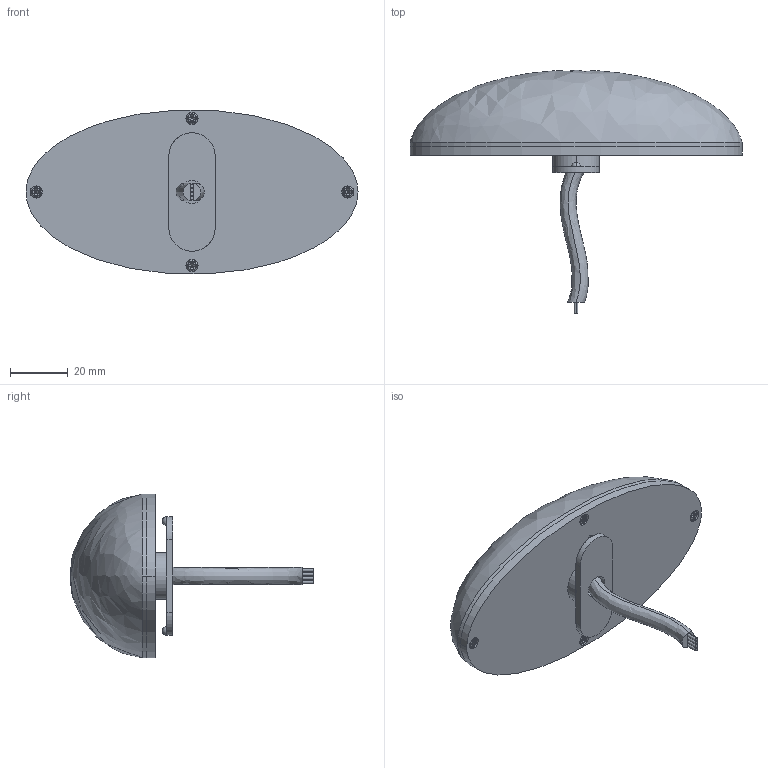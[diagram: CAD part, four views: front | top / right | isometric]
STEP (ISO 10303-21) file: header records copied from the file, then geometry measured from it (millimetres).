
FILE_DESCRIPTION (( 'STEP AP214' ), '1' );
FILE_NAME ('OverDot.STEP', '2019-07-17T10:06:34', ( '' ), ( '' ), 'SwSTEP 2.0', 'SolidWorks 2018', '' );
FILE_SCHEMA (( 'AUTOMOTIVE_DESIGN' ));
Length unit declared in the file: millimetre
Products named in the file (7): MEC408.05.00 Guarnizione Pinled; DDS1050; MEC408.03.00 Calotta Pinled; Cavo; Vite Parker 2.2x5 Inox_PreviewCfg; OverDot; MEC408.04.00 Tappo Pinled
Assembly tree (9 placements, depth 2):
  OverDot
    MEC408.04.00 Tappo Pinled
    MEC408.05.00 Guarnizione Pinled
    MEC408.03.00 Calotta Pinled
    DDS1050
    Vite Parker 2.2x5 Inox_PreviewCfg  x4
    Cavo
Bounding box: 115 x 84.5 x 56.76 mm (x, y, z)
Volume: 52397.9 mm3; surface area: 39970.2 mm2
Topology: 75 solids, 75 shells, 1821 faces, 4713 edges, 3087 vertices
Faces by surface type: plane 1190, cylinder 557, bspline 34, sphere 22, torus 10, cone 8
Entity records: 59395 total; most frequent: CARTESIAN_POINT 11543, ORIENTED_EDGE 9074, DIRECTION 8997, EDGE_CURVE 4537, LINE 3347, VECTOR 3347, VERTEX_POINT 2987, AXIS2_PLACEMENT_3D 2825
